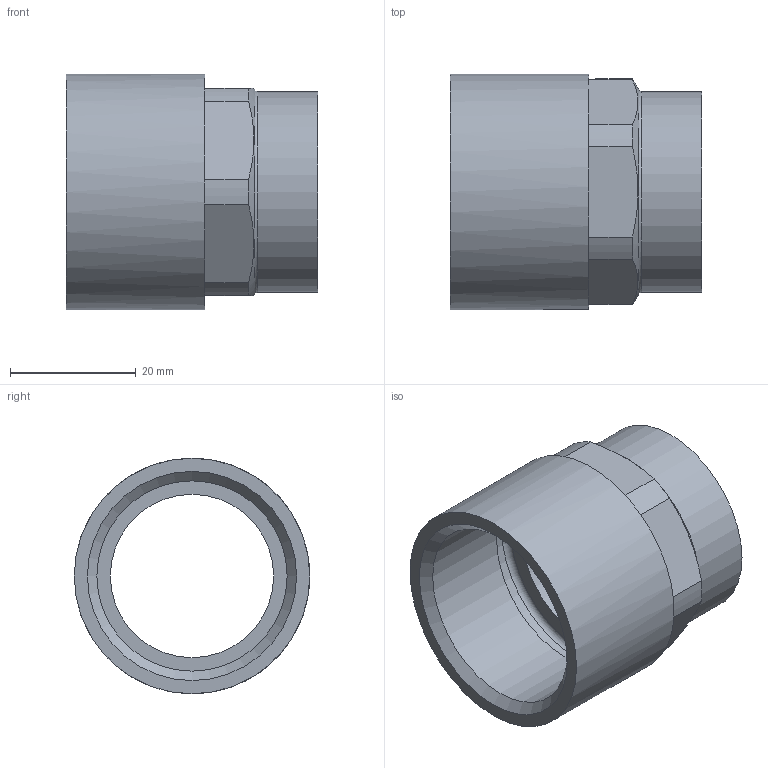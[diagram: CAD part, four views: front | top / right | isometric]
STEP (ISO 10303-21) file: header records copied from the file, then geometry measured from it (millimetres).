
FILE_DESCRIPTION((''),'2;1');
FILE_NAME('G:\Engineering\Public\RYSUNKI\SANHA POLSKA\4270G\STEP\14270_28-1(2).stp','2013-11-05T07:23:33',('haldrzynski'),(''),'Autodesk Inventor 2009','Autodesk Inventor 2009','');
FILE_SCHEMA(('AUTOMOTIVE_DESIGN { 1 0 10303 214 1 1 1 1 }'));
Length unit declared in the file: millimetre
Products named in the file (1): 14270_28-1(2)
Bounding box: 40 x 37.5 x 37.5 mm (x, y, z)
Volume: 12648.9 mm3; surface area: 9352.5 mm2
Topology: 1 solids, 1 shells, 28 faces, 64 edges, 41 vertices
Faces by surface type: cylinder 12, plane 11, cone 3, torus 1, bspline 1
Full cylindrical faces by diameter (mm): 26 x1, 28 x1, 30.291 x1, 32 x1, 33.249 x1, 37.5 x1
Entity records: 786 total; most frequent: CARTESIAN_POINT 175, DIRECTION 128, ORIENTED_EDGE 102, AXIS2_PLACEMENT_3D 55, EDGE_CURVE 51, EDGE_LOOP 44, VERTEX_POINT 39, FACE_OUTER_BOUND 28
